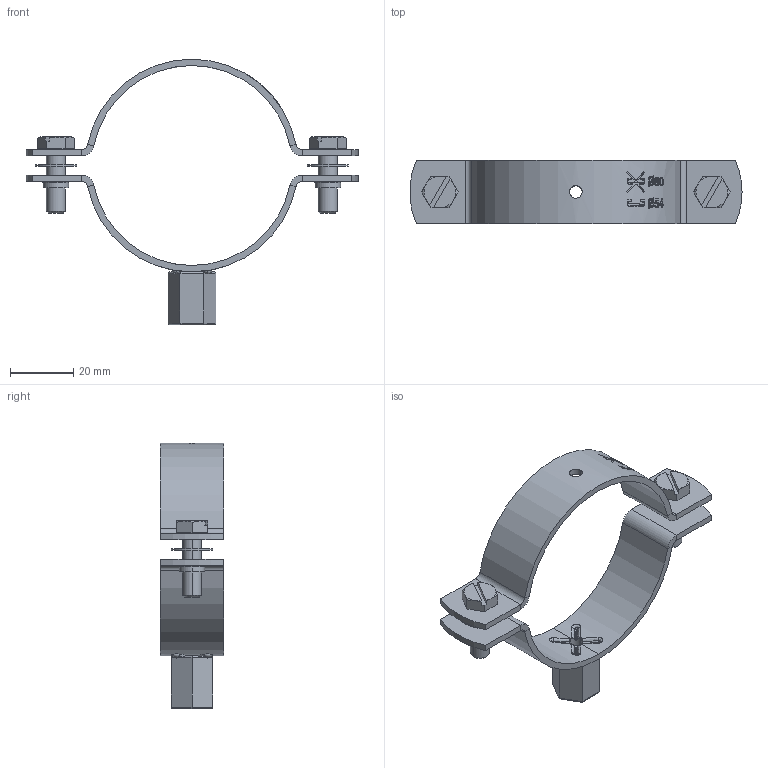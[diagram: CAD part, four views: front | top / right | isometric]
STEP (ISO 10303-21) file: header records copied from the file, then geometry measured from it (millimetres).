
FILE_DESCRIPTION (( 'STEP AP214' ), '1' );
FILE_NAME ('30179060.STEP', '2022-10-27T06:49:28', ( '' ), ( '' ), 'SwSTEP 2.0', 'SolidWorks 2021', '' );
FILE_SCHEMA (( 'AUTOMOTIVE_DESIGN' ));
Length unit declared in the file: millimetre
Products named in the file (7): Clamp^8110130060; 9735013060; 9519002599; 9541506020; 8110130060; 30179060; 8020130060
Assembly tree (8 placements, depth 3):
  30179060
    8110130060
      Clamp^8110130060
      9519002599
    8020130060
    9541506020  x2
    9735013060  x2
Bounding box: 104.63 x 20 x 83.7 mm (x, y, z)
Volume: 13728.5 mm3; surface area: 14952.2 mm2
Topology: 7 solids, 7 shells, 469 faces, 1207 edges, 770 vertices
Faces by surface type: bspline 171, plane 147, cylinder 109, cone 30, torus 12
Entity records: 25859 total; most frequent: CARTESIAN_POINT 16835, ORIENTED_EDGE 2160, DIRECTION 1229, EDGE_CURVE 1080, VERTEX_POINT 689, B_SPLINE_CURVE_WITH_KNOTS 572, AXIS2_PLACEMENT_3D 475, EDGE_LOOP 449
